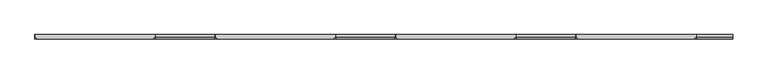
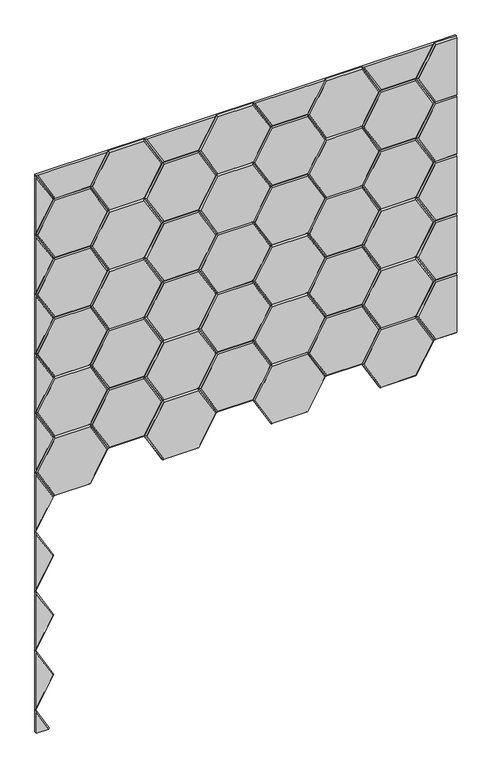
"""IFC4 building model written with IfcOpenShell, lengths in millimetres: proxy geometry, Wall_Clematis 3.3dm."""

from ifc_helpers import new_model, si_unit, origin, place, context, project, spatial, faceted_brep, source, transform, mapped, element, save


def generic_models_c8057d71(model_context):
    return source(origin(), model_context, "Body", "Brep", [
        faceted_brep([(0.0, 12.0, 2800.0), (86.1695, 12.0, 2650.7500479), (0.0, 12.0, 2501.5000959), (0.0, 6.0, 2501.5000959), (86.1695, 6.0, 2650.7500479), (0.0, 6.0, 2800.0), (0.0, 0.0, 2788.0), (0.0, 0.0, 2513.5000959), (79.2412968, 0.0, 2650.7500479)], [[[0, 1, 2]], [[3, 2, 1, 4]], [[4, 1, 0, 5]], [[6, 7, 8]], [[7, 3, 4, 8]], [[5, 6, 8, 4]], [[0, 2, 3, 7, 6, 5]]]),
        faceted_brep([(0.0, 12.0, 1606.0003835), (86.1695, 12.0, 1456.7504314), (0.0, 12.0, 1307.5004794), (0.0, 6.0, 1307.5004794), (86.1695, 6.0, 1456.7504314), (0.0, 6.0, 1606.0003835), (0.0, 0.0, 1594.0003835), (0.0, 0.0, 1319.5004794), (79.2412968, 0.0, 1456.7504314)], [[[0, 1, 2]], [[3, 2, 1, 4]], [[4, 1, 0, 5]], [[6, 7, 8]], [[7, 3, 4, 8]], [[5, 6, 8, 4]], [[0, 2, 3, 7, 6, 5]]]),
        faceted_brep([(0.0, 12.0, 1606.0003835), (0.0, 12.0, 1904.5002876), (86.1695, 12.0, 1755.2503356), (0.0, 6.0, 1904.5002876), (86.1695, 6.0, 1755.2503356), (0.0, 6.0, 1606.0003835), (0.0, 0.0, 1618.0003835), (79.2412968, 0.0, 1755.2503356), (0.0, 0.0, 1892.5002876)], [[[0, 1, 2]], [[3, 4, 2, 1]], [[4, 5, 0, 2]], [[6, 7, 8]], [[8, 7, 4, 3]], [[5, 4, 7, 6]], [[0, 5, 6, 8, 3, 1]]]),
        faceted_brep([(0.0, 12.0, 1904.5002876), (0.0, 12.0, 2203.0001917), (86.1695, 12.0, 2053.7502397), (0.0, 6.0, 2203.0001917), (86.1695, 6.0, 2053.7502397), (0.0, 6.0, 1904.5002876), (0.0, 0.0, 1916.5002876), (79.2412968, 0.0, 2053.7502397), (0.0, 0.0, 2191.0001917)], [[[0, 1, 2]], [[3, 4, 2, 1]], [[4, 5, 0, 2]], [[6, 7, 8]], [[8, 7, 4, 3]], [[5, 4, 7, 6]], [[0, 5, 6, 8, 3, 1]]]),
        faceted_brep([(0.0, 12.0, 2501.5000959), (86.1695, 12.0, 2352.2501438), (0.0, 12.0, 2203.0001917), (0.0, 6.0, 2203.0001917), (86.1695, 6.0, 2352.2501438), (0.0, 6.0, 2501.5000959), (0.0, 0.0, 2489.5000959), (0.0, 0.0, 2215.0001917), (79.2412968, 0.0, 2352.2501438)], [[[0, 1, 2]], [[3, 2, 1, 4]], [[4, 1, 0, 5]], [[6, 7, 8]], [[7, 3, 4, 8]], [[5, 6, 8, 4]], [[0, 2, 3, 7, 6, 5]]]),
        faceted_brep([(0.0, 12.0, 710.5006711), (0.0, 12.0, 1009.0005752), (86.1695, 12.0, 859.7506232), (0.0, 6.0, 1009.0005752), (86.1695, 6.0, 859.7506232), (0.0, 6.0, 710.5006711), (0.0, 0.0, 722.5006711), (79.2412968, 0.0, 859.7506232), (0.0, 0.0, 997.0005752)], [[[0, 1, 2]], [[3, 4, 2, 1]], [[4, 5, 0, 2]], [[6, 7, 8]], [[8, 7, 4, 3]], [[5, 4, 7, 6]], [[0, 5, 6, 8, 3, 1]]]),
        faceted_brep([(0.0, 12.0, 1307.5004794), (86.1695, 12.0, 1158.2505273), (0.0, 12.0, 1009.0005752), (0.0, 6.0, 1009.0005752), (86.1695, 6.0, 1158.2505273), (0.0, 6.0, 1307.5004794), (0.0, 0.0, 1295.5004794), (0.0, 0.0, 1021.0005752), (79.2412968, 0.0, 1158.2505273)], [[[0, 1, 2]], [[3, 2, 1, 4]], [[4, 1, 0, 5]], [[6, 7, 8]], [[7, 3, 4, 8]], [[5, 6, 8, 4]], [[0, 2, 3, 7, 6, 5]]]),
        faceted_brep([(0.0, 12.0, 710.5006711), (86.1695, 12.0, 561.2507191), (0.0, 12.0, 412.000767), (0.0, 6.0, 412.000767), (86.1695, 6.0, 561.2507191), (0.0, 6.0, 710.5006711), (0.0, 0.0, 698.5006711), (0.0, 0.0, 424.000767), (79.2412968, 0.0, 561.2507191)], [[[0, 1, 2]], [[3, 2, 1, 4]], [[4, 1, 0, 5]], [[6, 7, 8]], [[7, 3, 4, 8]], [[5, 6, 8, 4]], [[0, 2, 3, 7, 6, 5]]]),
        faceted_brep([(0.0, 12.0, 412.000767), (86.1695, 12.0, 262.7508149), (0.0, 12.0, 113.5008629), (0.0, 6.0, 113.5008629), (86.1695, 6.0, 262.7508149), (0.0, 6.0, 412.000767), (0.0, 0.0, 400.000767), (0.0, 0.0, 125.5008629), (79.2412968, 0.0, 262.7508149)], [[[0, 1, 2]], [[3, 2, 1, 4]], [[4, 1, 0, 5]], [[6, 7, 8]], [[7, 3, 4, 8]], [[5, 6, 8, 4]], [[0, 2, 3, 7, 6, 5]]]),
        faceted_brep([(0.0, 12.0, 0.0), (0.0, 12.0, 113.5008629), (65.5297537, 12.0, 0.0), (0.0, 6.0, 113.5008629), (65.5297537, 6.0, 0.0), (58.6015505, 0.0, 0.0), (0.0, 0.0, 101.5008629), (0.0, 0.0, 0.0)], [[[0, 1, 2]], [[2, 1, 3, 4]], [[5, 6, 7]], [[4, 3, 6, 5]], [[0, 7, 6, 3, 1]], [[5, 7, 0, 2, 4]]]),
        faceted_brep([(1120.2035, 6.0, 2650.7500479), (1034.034, 6.0, 2800.0), (1034.034, 12.0, 2800.0), (1120.2035, 12.0, 2650.7500479), (1378.712, 6.0, 2800.0), (1292.5425, 6.0, 2650.7500479), (1292.5425, 12.0, 2650.7500479), (1378.712, 12.0, 2800.0), (1123.6676016, 0.0, 2656.7500479), (1040.9622032, 0.0, 2800.0), (1371.7837968, 0.0, 2800.0), (1289.0783984, 0.0, 2656.7500479)], [[[0, 1, 2, 3]], [[4, 5, 6, 7]], [[5, 0, 3, 6]], [[0, 8, 9, 1]], [[4, 10, 11, 5]], [[5, 11, 8, 0]], [[7, 6, 3, 2]], [[10, 9, 8, 11]], [[7, 2, 1, 9, 10, 4]]]),
        faceted_brep([(1809.5595, 6.0, 2650.7500479), (1809.5595, 12.0, 2650.7500479), (1895.729, 12.0, 2800.0), (1895.729, 6.0, 2800.0), (1551.051, 6.0, 2800.0), (1551.051, 12.0, 2800.0), (1637.2205, 12.0, 2650.7500479), (1637.2205, 6.0, 2650.7500479), (1888.8007968, 0.0, 2800.0), (1806.0953984, 0.0, 2656.7500479), (1640.6846016, 0.0, 2656.7500479), (1557.9792032, 0.0, 2800.0)], [[[0, 1, 2, 3]], [[4, 5, 6, 7]], [[7, 6, 1, 0]], [[0, 3, 8, 9]], [[4, 7, 10, 11]], [[7, 0, 9, 10]], [[5, 2, 1, 6]], [[11, 10, 9, 8]], [[5, 4, 11, 8, 3, 2]]]),
        faceted_brep([(775.5255, 6.0, 2650.7500479), (775.5255, 12.0, 2650.7500479), (861.695, 12.0, 2800.0), (861.695, 6.0, 2800.0), (517.017, 6.0, 2800.0), (517.017, 12.0, 2800.0), (603.1865, 12.0, 2650.7500479), (603.1865, 6.0, 2650.7500479), (854.7667968, 0.0, 2800.0), (772.0613984, 0.0, 2656.7500479), (606.6506016, 0.0, 2656.7500479), (523.9452032, 0.0, 2800.0)], [[[0, 1, 2, 3]], [[4, 5, 6, 7]], [[7, 6, 1, 0]], [[0, 3, 8, 9]], [[4, 7, 10, 11]], [[7, 0, 9, 10]], [[5, 2, 1, 6]], [[11, 10, 9, 8]], [[5, 4, 11, 8, 3, 2]]]),
        faceted_brep([(86.1695, 6.0, 2650.7500479), (0.0, 6.0, 2800.0), (0.0, 12.0, 2800.0), (86.1695, 12.0, 2650.7500479), (344.678, 6.0, 2800.0), (258.5085, 6.0, 2650.7500479), (258.5085, 12.0, 2650.7500479), (344.678, 12.0, 2800.0), (89.6336016, 0.0, 2656.7500479), (6.9282032, 0.0, 2800.0), (337.7497968, 0.0, 2800.0), (255.0443984, 0.0, 2656.7500479)], [[[0, 1, 2, 3]], [[4, 5, 6, 7]], [[5, 0, 3, 6]], [[0, 8, 9, 1]], [[4, 10, 11, 5]], [[5, 11, 8, 0]], [[7, 2, 1, 9, 10, 4]], [[7, 6, 3, 2]], [[10, 9, 8, 11]]]),
        faceted_brep([(2000.0, 12.0, 2800.0), (2000.0, 12.0, 2501.5000959), (1895.729, 12.0, 2501.5000959), (1809.5595, 12.0, 2650.7500479), (1895.729, 12.0, 2800.0), (1895.729, 6.0, 2501.5000959), (1809.5595, 6.0, 2650.7500479), (1895.729, 6.0, 2800.0), (2000.0, 6.0, 2501.5000959), (2000.0, 0.0, 2794.0), (1899.1931016, 0.0, 2794.0), (1816.4877032, 0.0, 2650.7500479), (1899.1931016, 0.0, 2507.5000959), (2000.0, 0.0, 2507.5000959), (2000.0, 6.0, 2800.0)], [[[0, 1, 2, 3, 4]], [[5, 6, 3, 2]], [[6, 7, 4, 3]], [[8, 5, 2, 1]], [[9, 10, 11, 12, 13]], [[5, 12, 11, 6]], [[6, 11, 10, 7]], [[14, 7, 10, 9]], [[13, 12, 5, 8]], [[0, 14, 9, 13, 8, 1]], [[4, 7, 14, 0]]]),
        faceted_brep([(1551.051, 12.0, 2501.5000959), (1378.712, 12.0, 2501.5000959), (1292.5425, 12.0, 2650.7500479), (1378.712, 12.0, 2800.0), (1551.051, 12.0, 2800.0), (1637.2205, 12.0, 2650.7500479), (1551.051, 6.0, 2501.5000959), (1637.2205, 6.0, 2650.7500479), (1551.051, 6.0, 2800.0), (1378.712, 6.0, 2800.0), (1292.5425, 6.0, 2650.7500479), (1378.712, 6.0, 2501.5000959), (1382.1761016, 0.0, 2507.5000959), (1547.5868984, 0.0, 2507.5000959), (1630.2922968, 0.0, 2650.7500479), (1547.5868984, 0.0, 2794.0), (1382.1761016, 0.0, 2794.0), (1299.4707032, 0.0, 2650.7500479)], [[[0, 1, 2, 3, 4, 5]], [[6, 0, 5, 7]], [[7, 5, 4, 8]], [[9, 3, 2, 10]], [[10, 2, 1, 11]], [[11, 1, 0, 6]], [[12, 13, 14, 15, 16, 17]], [[6, 7, 14, 13]], [[7, 8, 15, 14]], [[8, 9, 16, 15]], [[9, 10, 17, 16]], [[10, 11, 12, 17]], [[11, 6, 13, 12]], [[4, 3, 9, 8]]]),
        faceted_brep([(1034.034, 12.0, 2501.5000959), (861.695, 12.0, 2501.5000959), (775.5255, 12.0, 2650.7500479), (861.695, 12.0, 2800.0), (1034.034, 12.0, 2800.0), (1120.2035, 12.0, 2650.7500479), (1034.034, 6.0, 2501.5000959), (1120.2035, 6.0, 2650.7500479), (1034.034, 6.0, 2800.0), (861.695, 6.0, 2800.0), (775.5255, 6.0, 2650.7500479), (861.695, 6.0, 2501.5000959), (865.1591016, 0.0, 2507.5000959), (1030.5698984, 0.0, 2507.5000959), (1113.2752968, 0.0, 2650.7500479), (1030.5698984, 0.0, 2794.0), (865.1591016, 0.0, 2794.0), (782.4537032, 0.0, 2650.7500479)], [[[0, 1, 2, 3, 4, 5]], [[6, 0, 5, 7]], [[7, 5, 4, 8]], [[9, 3, 2, 10]], [[10, 2, 1, 11]], [[11, 1, 0, 6]], [[12, 13, 14, 15, 16, 17]], [[6, 7, 14, 13]], [[7, 8, 15, 14]], [[8, 9, 16, 15]], [[9, 10, 17, 16]], [[10, 11, 12, 17]], [[11, 6, 13, 12]], [[4, 3, 9, 8]]]),
        faceted_brep([(344.678, 12.0, 2501.5000959), (258.5085, 12.0, 2650.7500479), (344.678, 12.0, 2800.0), (517.017, 12.0, 2800.0), (603.1865, 12.0, 2650.7500479), (517.017, 12.0, 2501.5000959), (344.678, 6.0, 2501.5000959), (258.5085, 6.0, 2650.7500479), (344.678, 6.0, 2800.0), (517.017, 6.0, 2800.0), (603.1865, 6.0, 2650.7500479), (517.017, 6.0, 2501.5000959), (513.5528984, 0.0, 2507.5000959), (596.2582968, 0.0, 2650.7500479), (513.5528984, 0.0, 2794.0), (348.1421016, 0.0, 2794.0), (265.4367032, 0.0, 2650.7500479), (348.1421016, 0.0, 2507.5000959)], [[[0, 1, 2, 3, 4, 5]], [[6, 7, 1, 0]], [[7, 8, 2, 1]], [[9, 10, 4, 3]], [[10, 11, 5, 4]], [[11, 6, 0, 5]], [[12, 13, 14, 15, 16, 17]], [[6, 17, 16, 7]], [[7, 16, 15, 8]], [[8, 15, 14, 9]], [[9, 14, 13, 10]], [[10, 13, 12, 11]], [[11, 12, 17, 6]], [[2, 8, 9, 3]]]),
        faceted_brep([(1120.2035, 12.0, 2650.7500479), (1292.5425, 12.0, 2650.7500479), (1378.712, 12.0, 2501.5000959), (1292.5425, 12.0, 2352.2501438), (1120.2035, 12.0, 2352.2501438), (1034.034, 12.0, 2501.5000959), (1120.2035, 6.0, 2650.7500479), (1034.034, 6.0, 2501.5000959), (1120.2035, 6.0, 2352.2501438), (1292.5425, 6.0, 2352.2501438), (1378.712, 6.0, 2501.5000959), (1292.5425, 6.0, 2650.7500479), (1289.0783984, 0.0, 2644.7500479), (1123.6676016, 0.0, 2644.7500479), (1040.9622032, 0.0, 2501.5000959), (1123.6676016, 0.0, 2358.2501438), (1289.0783984, 0.0, 2358.2501438), (1371.7837968, 0.0, 2501.5000959)], [[[0, 1, 2, 3, 4, 5]], [[6, 0, 5, 7]], [[7, 5, 4, 8]], [[8, 4, 3, 9]], [[9, 3, 2, 10]], [[10, 2, 1, 11]], [[11, 1, 0, 6]], [[12, 13, 14, 15, 16, 17]], [[6, 7, 14, 13]], [[7, 8, 15, 14]], [[8, 9, 16, 15]], [[9, 10, 17, 16]], [[10, 11, 12, 17]], [[11, 6, 13, 12]]]),
        faceted_brep([(1809.5595, 12.0, 2650.7500479), (1895.729, 12.0, 2501.5000959), (1809.5595, 12.0, 2352.2501438), (1637.2205, 12.0, 2352.2501438), (1551.051, 12.0, 2501.5000959), (1637.2205, 12.0, 2650.7500479), (1809.5595, 6.0, 2650.7500479), (1895.729, 6.0, 2501.5000959), (1809.5595, 6.0, 2352.2501438), (1637.2205, 6.0, 2352.2501438), (1551.051, 6.0, 2501.5000959), (1637.2205, 6.0, 2650.7500479), (1640.6846016, 0.0, 2644.7500479), (1557.9792032, 0.0, 2501.5000959), (1640.6846016, 0.0, 2358.2501438), (1806.0953984, 0.0, 2358.2501438), (1888.8007968, 0.0, 2501.5000959), (1806.0953984, 0.0, 2644.7500479)], [[[0, 1, 2, 3, 4, 5]], [[6, 7, 1, 0]], [[7, 8, 2, 1]], [[8, 9, 3, 2]], [[9, 10, 4, 3]], [[10, 11, 5, 4]], [[11, 6, 0, 5]], [[12, 13, 14, 15, 16, 17]], [[6, 17, 16, 7]], [[7, 16, 15, 8]], [[8, 15, 14, 9]], [[9, 14, 13, 10]], [[10, 13, 12, 11]], [[11, 12, 17, 6]]]),
        faceted_brep([(775.5255, 12.0, 2650.7500479), (861.695, 12.0, 2501.5000959), (775.5255, 12.0, 2352.2501438), (603.1865, 12.0, 2352.2501438), (517.017, 12.0, 2501.5000959), (603.1865, 12.0, 2650.7500479), (775.5255, 6.0, 2650.7500479), (861.695, 6.0, 2501.5000959), (775.5255, 6.0, 2352.2501438), (603.1865, 6.0, 2352.2501438), (517.017, 6.0, 2501.5000959), (603.1865, 6.0, 2650.7500479), (606.6506016, 0.0, 2644.7500479), (523.9452032, 0.0, 2501.5000959), (606.6506016, 0.0, 2358.2501438), (772.0613984, 0.0, 2358.2501438), (854.7667968, 0.0, 2501.5000959), (772.0613984, 0.0, 2644.7500479)], [[[0, 1, 2, 3, 4, 5]], [[6, 7, 1, 0]], [[7, 8, 2, 1]], [[8, 9, 3, 2]], [[9, 10, 4, 3]], [[10, 11, 5, 4]], [[11, 6, 0, 5]], [[12, 13, 14, 15, 16, 17]], [[6, 17, 16, 7]], [[7, 16, 15, 8]], [[8, 15, 14, 9]], [[9, 14, 13, 10]], [[10, 13, 12, 11]], [[11, 12, 17, 6]]]),
        faceted_brep([(86.1695, 12.0, 2650.7500479), (258.5085, 12.0, 2650.7500479), (344.678, 12.0, 2501.5000959), (258.5085, 12.0, 2352.2501438), (86.1695, 12.0, 2352.2501438), (0.0, 12.0, 2501.5000959), (86.1695, 6.0, 2650.7500479), (0.0, 6.0, 2501.5000959), (86.1695, 6.0, 2352.2501438), (258.5085, 6.0, 2352.2501438), (344.678, 6.0, 2501.5000959), (258.5085, 6.0, 2650.7500479), (255.0443984, 0.0, 2644.7500479), (89.6336016, 0.0, 2644.7500479), (6.9282032, 0.0, 2501.5000959), (89.6336016, 0.0, 2358.2501438), (255.0443984, 0.0, 2358.2501438), (337.7497968, 0.0, 2501.5000959)], [[[0, 1, 2, 3, 4, 5]], [[6, 0, 5, 7]], [[7, 5, 4, 8]], [[8, 4, 3, 9]], [[9, 3, 2, 10]], [[10, 2, 1, 11]], [[11, 1, 0, 6]], [[12, 13, 14, 15, 16, 17]], [[6, 7, 14, 13]], [[7, 8, 15, 14]], [[8, 9, 16, 15]], [[9, 10, 17, 16]], [[10, 11, 12, 17]], [[11, 6, 13, 12]]]),
        faceted_brep([(1120.2035, 12.0, 1456.7504314), (1034.034, 12.0, 1606.0003835), (1120.2035, 12.0, 1755.2503356), (1292.5425, 12.0, 1755.2503356), (1378.712, 12.0, 1606.0003835), (1292.5425, 12.0, 1456.7504314), (1120.2035, 6.0, 1456.7504314), (1034.034, 6.0, 1606.0003835), (1120.2035, 6.0, 1755.2503356), (1292.5425, 6.0, 1755.2503356), (1378.712, 6.0, 1606.0003835), (1292.5425, 6.0, 1456.7504314), (1289.0783984, 0.0, 1462.7504314), (1371.7837968, 0.0, 1606.0003835), (1289.0783984, 0.0, 1749.2503356), (1123.6676016, 0.0, 1749.2503356), (1040.9622032, 0.0, 1606.0003835), (1123.6676016, 0.0, 1462.7504314)], [[[0, 1, 2, 3, 4, 5]], [[6, 7, 1, 0]], [[7, 8, 2, 1]], [[8, 9, 3, 2]], [[9, 10, 4, 3]], [[10, 11, 5, 4]], [[11, 6, 0, 5]], [[12, 13, 14, 15, 16, 17]], [[6, 17, 16, 7]], [[7, 16, 15, 8]], [[8, 15, 14, 9]], [[9, 14, 13, 10]], [[10, 13, 12, 11]], [[11, 12, 17, 6]]]),
        faceted_brep([(1809.5595, 12.0, 1456.7504314), (1637.2205, 12.0, 1456.7504314), (1551.051, 12.0, 1606.0003835), (1637.2205, 12.0, 1755.2503356), (1809.5595, 12.0, 1755.2503356), (1895.729, 12.0, 1606.0003835), (1809.5595, 6.0, 1456.7504314), (1895.729, 6.0, 1606.0003835), (1809.5595, 6.0, 1755.2503356), (1637.2205, 6.0, 1755.2503356), (1551.051, 6.0, 1606.0003835), (1637.2205, 6.0, 1456.7504314), (1640.6846016, 0.0, 1462.7504314), (1806.0953984, 0.0, 1462.7504314), (1888.8007968, 0.0, 1606.0003835), (1806.0953984, 0.0, 1749.2503356), (1640.6846016, 0.0, 1749.2503356), (1557.9792032, 0.0, 1606.0003835)], [[[0, 1, 2, 3, 4, 5]], [[6, 0, 5, 7]], [[7, 5, 4, 8]], [[8, 4, 3, 9]], [[9, 3, 2, 10]], [[10, 2, 1, 11]], [[11, 1, 0, 6]], [[12, 13, 14, 15, 16, 17]], [[6, 7, 14, 13]], [[7, 8, 15, 14]], [[8, 9, 16, 15]], [[9, 10, 17, 16]], [[10, 11, 12, 17]], [[11, 6, 13, 12]]]),
        faceted_brep([(775.5255, 12.0, 1456.7504314), (603.1865, 12.0, 1456.7504314), (517.017, 12.0, 1606.0003835), (603.1865, 12.0, 1755.2503356), (775.5255, 12.0, 1755.2503356), (861.695, 12.0, 1606.0003835), (775.5255, 6.0, 1456.7504314), (861.695, 6.0, 1606.0003835), (775.5255, 6.0, 1755.2503356), (603.1865, 6.0, 1755.2503356), (517.017, 6.0, 1606.0003835), (603.1865, 6.0, 1456.7504314), (606.6506016, 0.0, 1462.7504314), (772.0613984, 0.0, 1462.7504314), (854.7667968, 0.0, 1606.0003835), (772.0613984, 0.0, 1749.2503356), (606.6506016, 0.0, 1749.2503356), (523.9452032, 0.0, 1606.0003835)], [[[0, 1, 2, 3, 4, 5]], [[6, 0, 5, 7]], [[7, 5, 4, 8]], [[8, 4, 3, 9]], [[9, 3, 2, 10]], [[10, 2, 1, 11]], [[11, 1, 0, 6]], [[12, 13, 14, 15, 16, 17]], [[6, 7, 14, 13]], [[7, 8, 15, 14]], [[8, 9, 16, 15]], [[9, 10, 17, 16]], [[10, 11, 12, 17]], [[11, 6, 13, 12]]]),
        faceted_brep([(86.1695, 12.0, 1456.7504314), (0.0, 12.0, 1606.0003835), (86.1695, 12.0, 1755.2503356), (258.5085, 12.0, 1755.2503356), (344.678, 12.0, 1606.0003835), (258.5085, 12.0, 1456.7504314), (86.1695, 6.0, 1456.7504314), (0.0, 6.0, 1606.0003835), (86.1695, 6.0, 1755.2503356), (258.5085, 6.0, 1755.2503356), (344.678, 6.0, 1606.0003835), (258.5085, 6.0, 1456.7504314), (255.0443984, 0.0, 1462.7504314), (337.7497968, 0.0, 1606.0003835), (255.0443984, 0.0, 1749.2503356), (89.6336016, 0.0, 1749.2503356), (6.9282032, 0.0, 1606.0003835), (89.6336016, 0.0, 1462.7504314)], [[[0, 1, 2, 3, 4, 5]], [[6, 7, 1, 0]], [[7, 8, 2, 1]], [[8, 9, 3, 2]], [[9, 10, 4, 3]], [[10, 11, 5, 4]], [[11, 6, 0, 5]], [[12, 13, 14, 15, 16, 17]], [[6, 17, 16, 7]], [[7, 16, 15, 8]], [[8, 15, 14, 9]], [[9, 14, 13, 10]], [[10, 13, 12, 11]], [[11, 12, 17, 6]]]),
        faceted_brep([(2000.0, 12.0, 1606.0003835), (2000.0, 12.0, 1307.5004794), (1895.729, 12.0, 1307.5004794), (1809.5595, 12.0, 1456.7504314), (1895.729, 12.0, 1606.0003835), (1895.729, 6.0, 1307.5004794), (1809.5595, 6.0, 1456.7504314), (1895.729, 6.0, 1606.0003835), (2000.0, 6.0, 1606.0003835), (2000.0, 6.0, 1307.5004794), (2000.0, 0.0, 1600.0003835), (1899.1931016, 0.0, 1600.0003835), (1816.4877032, 0.0, 1456.7504314), (1899.1931016, 0.0, 1313.5004794), (2000.0, 0.0, 1313.5004794)], [[[0, 1, 2, 3, 4]], [[5, 6, 3, 2]], [[6, 7, 4, 3]], [[0, 4, 7, 8]], [[9, 5, 2, 1]], [[10, 11, 12, 13, 14]], [[5, 13, 12, 6]], [[6, 12, 11, 7]], [[8, 7, 11, 10]], [[14, 13, 5, 9]], [[0, 8, 10, 14, 9, 1]]]),
        faceted_brep([(1551.051, 12.0, 1307.5004794), (1378.712, 12.0, 1307.5004794), (1292.5425, 12.0, 1456.7504314), (1378.712, 12.0, 1606.0003835), (1551.051, 12.0, 1606.0003835), (1637.2205, 12.0, 1456.7504314), (1551.051, 6.0, 1307.5004794), (1637.2205, 6.0, 1456.7504314), (1551.051, 6.0, 1606.0003835), (1378.712, 6.0, 1606.0003835), (1292.5425, 6.0, 1456.7504314), (1378.712, 6.0, 1307.5004794), (1382.1761016, 0.0, 1313.5004794), (1547.5868984, 0.0, 1313.5004794), (1630.2922968, 0.0, 1456.7504314), (1547.5868984, 0.0, 1600.0003835), (1382.1761016, 0.0, 1600.0003835), (1299.4707032, 0.0, 1456.7504314)], [[[0, 1, 2, 3, 4, 5]], [[6, 0, 5, 7]], [[7, 5, 4, 8]], [[8, 4, 3, 9]], [[9, 3, 2, 10]], [[10, 2, 1, 11]], [[11, 1, 0, 6]], [[12, 13, 14, 15, 16, 17]], [[6, 7, 14, 13]], [[7, 8, 15, 14]], [[8, 9, 16, 15]], [[9, 10, 17, 16]], [[10, 11, 12, 17]], [[11, 6, 13, 12]]]),
        faceted_brep([(1034.034, 12.0, 1307.5004794), (861.695, 12.0, 1307.5004794), (775.5255, 12.0, 1456.7504314), (861.695, 12.0, 1606.0003835), (1034.034, 12.0, 1606.0003835), (1120.2035, 12.0, 1456.7504314), (1034.034, 6.0, 1307.5004794), (1120.2035, 6.0, 1456.7504314), (1034.034, 6.0, 1606.0003835), (861.695, 6.0, 1606.0003835), (775.5255, 6.0, 1456.7504314), (861.695, 6.0, 1307.5004794), (865.1591016, 0.0, 1313.5004794), (1030.5698984, 0.0, 1313.5004794), (1113.2752968, 0.0, 1456.7504314), (1030.5698984, 0.0, 1600.0003835), (865.1591016, 0.0, 1600.0003835), (782.4537032, 0.0, 1456.7504314)], [[[0, 1, 2, 3, 4, 5]], [[6, 0, 5, 7]], [[7, 5, 4, 8]], [[8, 4, 3, 9]], [[9, 3, 2, 10]], [[10, 2, 1, 11]], [[11, 1, 0, 6]], [[12, 13, 14, 15, 16, 17]], [[6, 7, 14, 13]], [[7, 8, 15, 14]], [[8, 9, 16, 15]], [[9, 10, 17, 16]], [[10, 11, 12, 17]], [[11, 6, 13, 12]]]),
        faceted_brep([(344.678, 12.0, 1307.5004794), (258.5085, 12.0, 1456.7504314), (344.678, 12.0, 1606.0003835), (517.017, 12.0, 1606.0003835), (603.1865, 12.0, 1456.7504314), (517.017, 12.0, 1307.5004794), (344.678, 6.0, 1307.5004794), (258.5085, 6.0, 1456.7504314), (344.678, 6.0, 1606.0003835), (517.017, 6.0, 1606.0003835), (603.1865, 6.0, 1456.7504314), (517.017, 6.0, 1307.5004794), (513.5528984, 0.0, 1313.5004794), (596.2582968, 0.0, 1456.7504314), (513.5528984, 0.0, 1600.0003835), (348.1421016, 0.0, 1600.0003835), (265.4367032, 0.0, 1456.7504314), (348.1421016, 0.0, 1313.5004794)], [[[0, 1, 2, 3, 4, 5]], [[6, 7, 1, 0]], [[7, 8, 2, 1]], [[8, 9, 3, 2]], [[9, 10, 4, 3]], [[10, 11, 5, 4]], [[11, 6, 0, 5]], [[12, 13, 14, 15, 16, 17]], [[6, 17, 16, 7]], [[7, 16, 15, 8]], [[8, 15, 14, 9]], [[9, 14, 13, 10]], [[10, 13, 12, 11]], [[11, 12, 17, 6]]]),
        faceted_brep([(1120.2035, 12.0, 1456.7504314), (1292.5425, 12.0, 1456.7504314), (1378.712, 12.0, 1307.5004794), (1292.5425, 12.0, 1158.2505273), (1120.2035, 12.0, 1158.2505273), (1034.034, 12.0, 1307.5004794), (1120.2035, 6.0, 1456.7504314), (1034.034, 6.0, 1307.5004794), (1120.2035, 6.0, 1158.2505273), (1292.5425, 6.0, 1158.2505273), (1378.712, 6.0, 1307.5004794), (1292.5425, 6.0, 1456.7504314), (1289.0783984, 0.0, 1450.7504314), (1123.6676016, 0.0, 1450.7504314), (1040.9622032, 0.0, 1307.5004794), (1123.6676016, 0.0, 1164.2505273), (1289.0783984, 0.0, 1164.2505273), (1371.7837968, 0.0, 1307.5004794)], [[[0, 1, 2, 3, 4, 5]], [[6, 0, 5, 7]], [[7, 5, 4, 8]], [[8, 4, 3, 9]], [[9, 3, 2, 10]], [[10, 2, 1, 11]], [[11, 1, 0, 6]], [[12, 13, 14, 15, 16, 17]], [[6, 7, 14, 13]], [[7, 8, 15, 14]], [[8, 9, 16, 15]], [[9, 10, 17, 16]], [[10, 11, 12, 17]], [[11, 6, 13, 12]]]),
        faceted_brep([(1809.5595, 12.0, 1456.7504314), (1895.729, 12.0, 1307.5004794), (1809.5595, 12.0, 1158.2505273), (1637.2205, 12.0, 1158.2505273), (1551.051, 12.0, 1307.5004794), (1637.2205, 12.0, 1456.7504314), (1809.5595, 6.0, 1456.7504314), (1895.729, 6.0, 1307.5004794), (1809.5595, 6.0, 1158.2505273), (1637.2205, 6.0, 1158.2505273), (1551.051, 6.0, 1307.5004794), (1637.2205, 6.0, 1456.7504314), (1640.6846016, 0.0, 1450.7504314), (1557.9792032, 0.0, 1307.5004794), (1640.6846016, 0.0, 1164.2505273), (1806.0953984, 0.0, 1164.2505273), (1888.8007968, 0.0, 1307.5004794), (1806.0953984, 0.0, 1450.7504314)], [[[0, 1, 2, 3, 4, 5]], [[6, 7, 1, 0]], [[7, 8, 2, 1]], [[8, 9, 3, 2]], [[9, 10, 4, 3]], [[10, 11, 5, 4]], [[11, 6, 0, 5]], [[12, 13, 14, 15, 16, 17]], [[6, 17, 16, 7]], [[7, 16, 15, 8]], [[8, 15, 14, 9]], [[9, 14, 13, 10]], [[10, 13, 12, 11]], [[11, 12, 17, 6]]]),
        faceted_brep([(775.5255, 12.0, 1456.7504314), (861.695, 12.0, 1307.5004794), (775.5255, 12.0, 1158.2505273), (603.1865, 12.0, 1158.2505273), (517.017, 12.0, 1307.5004794), (603.1865, 12.0, 1456.7504314), (775.5255, 6.0, 1456.7504314), (861.695, 6.0, 1307.5004794), (775.5255, 6.0, 1158.2505273), (603.1865, 6.0, 1158.2505273), (517.017, 6.0, 1307.5004794), (603.1865, 6.0, 1456.7504314), (606.6506016, 0.0, 1450.7504314), (523.9452032, 0.0, 1307.5004794), (606.6506016, 0.0, 1164.2505273), (772.0613984, 0.0, 1164.2505273), (854.7667968, 0.0, 1307.5004794), (772.0613984, 0.0, 1450.7504314)], [[[0, 1, 2, 3, 4, 5]], [[6, 7, 1, 0]], [[7, 8, 2, 1]], [[8, 9, 3, 2]], [[9, 10, 4, 3]], [[10, 11, 5, 4]], [[11, 6, 0, 5]], [[12, 13, 14, 15, 16, 17]], [[6, 17, 16, 7]], [[7, 16, 15, 8]], [[8, 15, 14, 9]], [[9, 14, 13, 10]], [[10, 13, 12, 11]], [[11, 12, 17, 6]]]),
        faceted_brep([(86.1695, 12.0, 1456.7504314), (258.5085, 12.0, 1456.7504314), (344.678, 12.0, 1307.5004794), (258.5085, 12.0, 1158.2505273), (86.1695, 12.0, 1158.2505273), (0.0, 12.0, 1307.5004794), (86.1695, 6.0, 1456.7504314), (0.0, 6.0, 1307.5004794), (86.1695, 6.0, 1158.2505273), (258.5085, 6.0, 1158.2505273), (344.678, 6.0, 1307.5004794), (258.5085, 6.0, 1456.7504314), (255.0443984, 0.0, 1450.7504314), (89.6336016, 0.0, 1450.7504314), (6.9282032, 0.0, 1307.5004794), (89.6336016, 0.0, 1164.2505273), (255.0443984, 0.0, 1164.2505273), (337.7497968, 0.0, 1307.5004794)], [[[0, 1, 2, 3, 4, 5]], [[6, 0, 5, 7]], [[7, 5, 4, 8]], [[8, 4, 3, 9]], [[9, 3, 2, 10]], [[10, 2, 1, 11]], [[11, 1, 0, 6]], [[12, 13, 14, 15, 16, 17]], [[6, 7, 14, 13]], [[7, 8, 15, 14]], [[8, 9, 16, 15]], [[9, 10, 17, 16]], [[10, 11, 12, 17]], [[11, 6, 13, 12]]]),
        faceted_brep([(2000.0, 12.0, 1606.0003835), (1895.729, 12.0, 1606.0003835), (1809.5595, 12.0, 1755.2503356), (1895.729, 12.0, 1904.5002876), (2000.0, 12.0, 1904.5002876), (1895.729, 6.0, 1904.5002876), (1809.5595, 6.0, 1755.2503356), (1895.729, 6.0, 1606.0003835), (2000.0, 6.0, 1606.0003835), (2000.0, 6.0, 1904.5002876), (2000.0, 0.0, 1612.0003835), (2000.0, 0.0, 1898.5002876), (1899.1931016, 0.0, 1898.5002876), (1816.4877032, 0.0, 1755.2503356), (1899.1931016, 0.0, 1612.0003835)], [[[0, 1, 2, 3, 4]], [[5, 3, 2, 6]], [[6, 2, 1, 7]], [[0, 8, 7, 1]], [[9, 4, 3, 5]], [[10, 11, 12, 13, 14]], [[5, 6, 13, 12]], [[6, 7, 14, 13]], [[8, 10, 14, 7]], [[11, 9, 5, 12]], [[0, 4, 9, 11, 10, 8]]]),
        faceted_brep([(1120.2035, 12.0, 2053.7502397), (1292.5425, 12.0, 2053.7502397), (1378.712, 12.0, 1904.5002876), (1292.5425, 12.0, 1755.2503356), (1120.2035, 12.0, 1755.2503356), (1034.034, 12.0, 1904.5002876), (1120.2035, 6.0, 2053.7502397), (1034.034, 6.0, 1904.5002876), (1120.2035, 6.0, 1755.2503356), (1292.5425, 6.0, 1755.2503356), (1378.712, 6.0, 1904.5002876), (1292.5425, 6.0, 2053.7502397), (1289.0783984, 0.0, 2047.7502397), (1123.6676016, 0.0, 2047.7502397), (1040.9622032, 0.0, 1904.5002876), (1123.6676016, 0.0, 1761.2503356), (1289.0783984, 0.0, 1761.2503356), (1371.7837968, 0.0, 1904.5002876)], [[[0, 1, 2, 3, 4, 5]], [[6, 0, 5, 7]], [[7, 5, 4, 8]], [[8, 4, 3, 9]], [[9, 3, 2, 10]], [[10, 2, 1, 11]], [[11, 1, 0, 6]], [[12, 13, 14, 15, 16, 17]], [[6, 7, 14, 13]], [[7, 8, 15, 14]], [[8, 9, 16, 15]], [[9, 10, 17, 16]], [[10, 11, 12, 17]], [[11, 6, 13, 12]]]),
        faceted_brep([(1809.5595, 12.0, 2053.7502397), (1895.729, 12.0, 1904.5002876), (1809.5595, 12.0, 1755.2503356), (1637.2205, 12.0, 1755.2503356), (1551.051, 12.0, 1904.5002876), (1637.2205, 12.0, 2053.7502397), (1809.5595, 6.0, 2053.7502397), (1895.729, 6.0, 1904.5002876), (1809.5595, 6.0, 1755.2503356), (1637.2205, 6.0, 1755.2503356), (1551.051, 6.0, 1904.5002876), (1637.2205, 6.0, 2053.7502397), (1640.6846016, 0.0, 2047.7502397), (1557.9792032, 0.0, 1904.5002876), (1640.6846016, 0.0, 1761.2503356), (1806.0953984, 0.0, 1761.2503356), (1888.8007968, 0.0, 1904.5002876), (1806.0953984, 0.0, 2047.7502397)], [[[0, 1, 2, 3, 4, 5]], [[6, 7, 1, 0]], [[7, 8, 2, 1]], [[8, 9, 3, 2]], [[9, 10, 4, 3]], [[10, 11, 5, 4]], [[11, 6, 0, 5]], [[12, 13, 14, 15, 16, 17]], [[6, 17, 16, 7]], [[7, 16, 15, 8]], [[8, 15, 14, 9]], [[9, 14, 13, 10]], [[10, 13, 12, 11]], [[11, 12, 17, 6]]]),
        faceted_brep([(1551.051, 12.0, 1904.5002876), (1637.2205, 12.0, 1755.2503356), (1551.051, 12.0, 1606.0003835), (1378.712, 12.0, 1606.0003835), (1292.5425, 12.0, 1755.2503356), (1378.712, 12.0, 1904.5002876), (1551.051, 6.0, 1904.5002876), (1637.2205, 6.0, 1755.2503356), (1551.051, 6.0, 1606.0003835), (1378.712, 6.0, 1606.0003835), (1292.5425, 6.0, 1755.2503356), (1378.712, 6.0, 1904.5002876), (1382.1761016, 0.0, 1898.5002876), (1299.4707032, 0.0, 1755.2503356), (1382.1761016, 0.0, 1612.0003835), (1547.5868984, 0.0, 1612.0003835), (1630.2922968, 0.0, 1755.2503356), (1547.5868984, 0.0, 1898.5002876)], [[[0, 1, 2, 3, 4, 5]], [[6, 7, 1, 0]], [[7, 8, 2, 1]], [[8, 9, 3, 2]], [[9, 10, 4, 3]], [[10, 11, 5, 4]], [[11, 6, 0, 5]], [[12, 13, 14, 15, 16, 17]], [[6, 17, 16, 7]], [[7, 16, 15, 8]], [[8, 15, 14, 9]], [[9, 14, 13, 10]], [[10, 13, 12, 11]], [[11, 12, 17, 6]]]),
        faceted_brep([(1034.034, 12.0, 1904.5002876), (1120.2035, 12.0, 1755.2503356), (1034.034, 12.0, 1606.0003835), (861.695, 12.0, 1606.0003835), (775.5255, 12.0, 1755.2503356), (861.695, 12.0, 1904.5002876), (1034.034, 6.0, 1904.5002876), (1120.2035, 6.0, 1755.2503356), (1034.034, 6.0, 1606.0003835), (861.695, 6.0, 1606.0003835), (775.5255, 6.0, 1755.2503356), (861.695, 6.0, 1904.5002876), (865.1591016, 0.0, 1898.5002876), (782.4537032, 0.0, 1755.2503356), (865.1591016, 0.0, 1612.0003835), (1030.5698984, 0.0, 1612.0003835), (1113.2752968, 0.0, 1755.2503356), (1030.5698984, 0.0, 1898.5002876)], [[[0, 1, 2, 3, 4, 5]], [[6, 7, 1, 0]], [[7, 8, 2, 1]], [[8, 9, 3, 2]], [[9, 10, 4, 3]], [[10, 11, 5, 4]], [[11, 6, 0, 5]], [[12, 13, 14, 15, 16, 17]], [[6, 17, 16, 7]], [[7, 16, 15, 8]], [[8, 15, 14, 9]], [[9, 14, 13, 10]], [[10, 13, 12, 11]], [[11, 12, 17, 6]]]),
        faceted_brep([(775.5255, 12.0, 2053.7502397), (861.695, 12.0, 1904.5002876), (775.5255, 12.0, 1755.2503356), (603.1865, 12.0, 1755.2503356), (517.017, 12.0, 1904.5002876), (603.1865, 12.0, 2053.7502397), (775.5255, 6.0, 2053.7502397), (861.695, 6.0, 1904.5002876), (775.5255, 6.0, 1755.2503356), (603.1865, 6.0, 1755.2503356), (517.017, 6.0, 1904.5002876), (603.1865, 6.0, 2053.7502397), (606.6506016, 0.0, 2047.7502397), (523.9452032, 0.0, 1904.5002876), (606.6506016, 0.0, 1761.2503356), (772.0613984, 0.0, 1761.2503356), (854.7667968, 0.0, 1904.5002876), (772.0613984, 0.0, 2047.7502397)], [[[0, 1, 2, 3, 4, 5]], [[6, 7, 1, 0]], [[7, 8, 2, 1]], [[8, 9, 3, 2]], [[9, 10, 4, 3]], [[10, 11, 5, 4]], [[11, 6, 0, 5]], [[12, 13, 14, 15, 16, 17]], [[6, 17, 16, 7]], [[7, 16, 15, 8]], [[8, 15, 14, 9]], [[9, 14, 13, 10]], [[10, 13, 12, 11]], [[11, 12, 17, 6]]]),
        faceted_brep([(86.1695, 12.0, 2053.7502397), (258.5085, 12.0, 2053.7502397), (344.678, 12.0, 1904.5002876), (258.5085, 12.0, 1755.2503356), (86.1695, 12.0, 1755.2503356), (0.0, 12.0, 1904.5002876), (86.1695, 6.0, 2053.7502397), (0.0, 6.0, 1904.5002876), (86.1695, 6.0, 1755.2503356), (258.5085, 6.0, 1755.2503356), (344.678, 6.0, 1904.5002876), (258.5085, 6.0, 2053.7502397), (255.0443984, 0.0, 2047.7502397), (89.6336016, 0.0, 2047.7502397), (6.9282032, 0.0, 1904.5002876), (89.6336016, 0.0, 1761.2503356), (255.0443984, 0.0, 1761.2503356), (337.7497968, 0.0, 1904.5002876)], [[[0, 1, 2, 3, 4, 5]], [[6, 0, 5, 7]], [[7, 5, 4, 8]], [[8, 4, 3, 9]], [[9, 3, 2, 10]], [[10, 2, 1, 11]], [[11, 1, 0, 6]], [[12, 13, 14, 15, 16, 17]], [[6, 7, 14, 13]], [[7, 8, 15, 14]], [[8, 9, 16, 15]], [[9, 10, 17, 16]], [[10, 11, 12, 17]], [[11, 6, 13, 12]]]),
        faceted_brep([(344.678, 12.0, 1904.5002876), (517.017, 12.0, 1904.5002876), (603.1865, 12.0, 1755.2503356), (517.017, 12.0, 1606.0003835), (344.678, 12.0, 1606.0003835), (258.5085, 12.0, 1755.2503356), (344.678, 6.0, 1904.5002876), (258.5085, 6.0, 1755.2503356), (344.678, 6.0, 1606.0003835), (517.017, 6.0, 1606.0003835), (603.1865, 6.0, 1755.2503356), (517.017, 6.0, 1904.5002876), (513.5528984, 0.0, 1898.5002876), (348.1421016, 0.0, 1898.5002876), (265.4367032, 0.0, 1755.2503356), (348.1421016, 0.0, 1612.0003835), (513.5528984, 0.0, 1612.0003835), (596.2582968, 0.0, 1755.2503356)], [[[0, 1, 2, 3, 4, 5]], [[6, 0, 5, 7]], [[7, 5, 4, 8]], [[8, 4, 3, 9]], [[9, 3, 2, 10]], [[10, 2, 1, 11]], [[11, 1, 0, 6]], [[12, 13, 14, 15, 16, 17]], [[6, 7, 14, 13]], [[7, 8, 15, 14]], [[8, 9, 16, 15]], [[9, 10, 17, 16]], [[10, 11, 12, 17]], [[11, 6, 13, 12]]]),
        faceted_brep([(2000.0, 12.0, 1904.5002876), (1895.729, 12.0, 1904.5002876), (1809.5595, 12.0, 2053.7502397), (1895.729, 12.0, 2203.0001917), (2000.0, 12.0, 2203.0001917), (1895.729, 6.0, 2203.0001917), (1809.5595, 6.0, 2053.7502397), (1895.729, 6.0, 1904.5002876), (2000.0, 6.0, 1904.5002876), (2000.0, 6.0, 2203.0001917), (2000.0, 0.0, 1910.5002876), (2000.0, 0.0, 2197.0001917), (1899.1931016, 0.0, 2197.0001917), (1816.4877032, 0.0, 2053.7502397), (1899.1931016, 0.0, 1910.5002876)], [[[0, 1, 2, 3, 4]], [[5, 3, 2, 6]], [[6, 2, 1, 7]], [[0, 8, 7, 1]], [[9, 4, 3, 5]], [[10, 11, 12, 13, 14]], [[5, 6, 13, 12]], [[6, 7, 14, 13]], [[8, 10, 14, 7]], [[11, 9, 5, 12]], [[0, 4, 9, 11, 10, 8]]]),
        faceted_brep([(1551.051, 12.0, 2203.0001917), (1637.2205, 12.0, 2053.7502397), (1551.051, 12.0, 1904.5002876), (1378.712, 12.0, 1904.5002876), (1292.5425, 12.0, 2053.7502397), (1378.712, 12.0, 2203.0001917), (1551.051, 6.0, 2203.0001917), (1637.2205, 6.0, 2053.7502397), (1551.051, 6.0, 1904.5002876), (1378.712, 6.0, 1904.5002876), (1292.5425, 6.0, 2053.7502397), (1378.712, 6.0, 2203.0001917), (1382.1761016, 0.0, 2197.0001917), (1299.4707032, 0.0, 2053.7502397), (1382.1761016, 0.0, 1910.5002876), (1547.5868984, 0.0, 1910.5002876), (1630.2922968, 0.0, 2053.7502397), (1547.5868984, 0.0, 2197.0001917)], [[[0, 1, 2, 3, 4, 5]], [[6, 7, 1, 0]], [[7, 8, 2, 1]], [[8, 9, 3, 2]], [[9, 10, 4, 3]], [[10, 11, 5, 4]], [[11, 6, 0, 5]], [[12, 13, 14, 15, 16, 17]], [[6, 17, 16, 7]], [[7, 16, 15, 8]], [[8, 15, 14, 9]], [[9, 14, 13, 10]], [[10, 13, 12, 11]], [[11, 12, 17, 6]]]),
        faceted_brep([(1034.034, 12.0, 2203.0001917), (1120.2035, 12.0, 2053.7502397), (1034.034, 12.0, 1904.5002876), (861.695, 12.0, 1904.5002876), (775.5255, 12.0, 2053.7502397), (861.695, 12.0, 2203.0001917), (1034.034, 6.0, 2203.0001917), (1120.2035, 6.0, 2053.7502397), (1034.034, 6.0, 1904.5002876), (861.695, 6.0, 1904.5002876), (775.5255, 6.0, 2053.7502397), (861.695, 6.0, 2203.0001917), (865.1591016, 0.0, 2197.0001917), (782.4537032, 0.0, 2053.7502397), (865.1591016, 0.0, 1910.5002876), (1030.5698984, 0.0, 1910.5002876), (1113.2752968, 0.0, 2053.7502397), (1030.5698984, 0.0, 2197.0001917)], [[[0, 1, 2, 3, 4, 5]], [[6, 7, 1, 0]], [[7, 8, 2, 1]], [[8, 9, 3, 2]], [[9, 10, 4, 3]], [[10, 11, 5, 4]], [[11, 6, 0, 5]], [[12, 13, 14, 15, 16, 17]], [[6, 17, 16, 7]], [[7, 16, 15, 8]], [[8, 15, 14, 9]], [[9, 14, 13, 10]], [[10, 13, 12, 11]], [[11, 12, 17, 6]]]),
        faceted_brep([(344.678, 12.0, 2203.0001917), (517.017, 12.0, 2203.0001917), (603.1865, 12.0, 2053.7502397), (517.017, 12.0, 1904.5002876), (344.678, 12.0, 1904.5002876), (258.5085, 12.0, 2053.7502397), (344.678, 6.0, 2203.0001917), (258.5085, 6.0, 2053.7502397), (344.678, 6.0, 1904.5002876), (517.017, 6.0, 1904.5002876), (603.1865, 6.0, 2053.7502397), (517.017, 6.0, 2203.0001917), (513.5528984, 0.0, 2197.0001917), (348.1421016, 0.0, 2197.0001917), (265.4367032, 0.0, 2053.7502397), (348.1421016, 0.0, 1910.5002876), (513.5528984, 0.0, 1910.5002876), (596.2582968, 0.0, 2053.7502397)], [[[0, 1, 2, 3, 4, 5]], [[6, 0, 5, 7]], [[7, 5, 4, 8]], [[8, 4, 3, 9]], [[9, 3, 2, 10]], [[10, 2, 1, 11]], [[11, 1, 0, 6]], [[12, 13, 14, 15, 16, 17]], [[6, 7, 14, 13]], [[7, 8, 15, 14]], [[8, 9, 16, 15]], [[9, 10, 17, 16]], [[10, 11, 12, 17]], [[11, 6, 13, 12]]]),
        faceted_brep([(2000.0, 12.0, 2501.5000959), (2000.0, 12.0, 2203.0001917), (1895.729, 12.0, 2203.0001917), (1809.5595, 12.0, 2352.2501438), (1895.729, 12.0, 2501.5000959), (1895.729, 6.0, 2203.0001917), (1809.5595, 6.0, 2352.2501438), (1895.729, 6.0, 2501.5000959), (2000.0, 6.0, 2501.5000959), (2000.0, 6.0, 2203.0001917), (2000.0, 0.0, 2495.5000959), (1899.1931016, 0.0, 2495.5000959), (1816.4877032, 0.0, 2352.2501438), (1899.1931016, 0.0, 2209.0001917), (2000.0, 0.0, 2209.0001917)], [[[0, 1, 2, 3, 4]], [[5, 6, 3, 2]], [[6, 7, 4, 3]], [[0, 4, 7, 8]], [[9, 5, 2, 1]], [[10, 11, 12, 13, 14]], [[5, 13, 12, 6]], [[6, 12, 11, 7]], [[8, 7, 11, 10]], [[14, 13, 5, 9]], [[0, 8, 10, 14, 9, 1]]]),
        faceted_brep([(1120.2035, 12.0, 2053.7502397), (1034.034, 12.0, 2203.0001917), (1120.2035, 12.0, 2352.2501438), (1292.5425, 12.0, 2352.2501438), (1378.712, 12.0, 2203.0001917), (1292.5425, 12.0, 2053.7502397), (1120.2035, 6.0, 2053.7502397), (1034.034, 6.0, 2203.0001917), (1120.2035, 6.0, 2352.2501438), (1292.5425, 6.0, 2352.2501438), (1378.712, 6.0, 2203.0001917), (1292.5425, 6.0, 2053.7502397), (1289.0783984, 0.0, 2059.7502397), (1371.7837968, 0.0, 2203.0001917), (1289.0783984, 0.0, 2346.2501438), (1123.6676016, 0.0, 2346.2501438), (1040.9622032, 0.0, 2203.0001917), (1123.6676016, 0.0, 2059.7502397)], [[[0, 1, 2, 3, 4, 5]], [[6, 7, 1, 0]], [[7, 8, 2, 1]], [[8, 9, 3, 2]], [[9, 10, 4, 3]], [[10, 11, 5, 4]], [[11, 6, 0, 5]], [[12, 13, 14, 15, 16, 17]], [[6, 17, 16, 7]], [[7, 16, 15, 8]], [[8, 15, 14, 9]], [[9, 14, 13, 10]], [[10, 13, 12, 11]], [[11, 12, 17, 6]]]),
        faceted_brep([(1809.5595, 12.0, 2053.7502397), (1637.2205, 12.0, 2053.7502397), (1551.051, 12.0, 2203.0001917), (1637.2205, 12.0, 2352.2501438), (1809.5595, 12.0, 2352.2501438), (1895.729, 12.0, 2203.0001918), (1809.5595, 6.0, 2053.7502397), (1895.729, 6.0, 2203.0001918), (1809.5595, 6.0, 2352.2501438), (1637.2205, 6.0, 2352.2501438), (1551.051, 6.0, 2203.0001917), (1637.2205, 6.0, 2053.7502397), (1640.6846016, 0.0, 2059.7502397), (1806.0953984, 0.0, 2059.7502397), (1888.8007968, 0.0, 2203.0001918), (1806.0953984, 0.0, 2346.2501438), (1640.6846016, 0.0, 2346.2501438), (1557.9792032, 0.0, 2203.0001917)], [[[0, 1, 2, 3, 4, 5]], [[6, 0, 5, 7]], [[7, 5, 4, 8]], [[8, 4, 3, 9]], [[9, 3, 2, 10]], [[10, 2, 1, 11]], [[11, 1, 0, 6]], [[12, 13, 14, 15, 16, 17]], [[6, 7, 14, 13]], [[7, 8, 15, 14]], [[8, 9, 16, 15]], [[9, 10, 17, 16]], [[10, 11, 12, 17]], [[11, 6, 13, 12]]]),
        faceted_brep([(1551.051, 12.0, 2203.0001917), (1378.712, 12.0, 2203.0001917), (1292.5425, 12.0, 2352.2501438), (1378.712, 12.0, 2501.5000959), (1551.051, 12.0, 2501.5000959), (1637.2205, 12.0, 2352.2501438), (1551.051, 6.0, 2203.0001917), (1637.2205, 6.0, 2352.2501438), (1551.051, 6.0, 2501.5000959), (1378.712, 6.0, 2501.5000959), (1292.5425, 6.0, 2352.2501438), (1378.712, 6.0, 2203.0001917), (1382.1761016, 0.0, 2209.0001917), (1547.5868984, 0.0, 2209.0001917), (1630.2922968, 0.0, 2352.2501438), (1547.5868984, 0.0, 2495.5000959), (1382.1761016, 0.0, 2495.5000959), (1299.4707032, 0.0, 2352.2501438)], [[[0, 1, 2, 3, 4, 5]], [[6, 0, 5, 7]], [[7, 5, 4, 8]], [[8, 4, 3, 9]], [[9, 3, 2, 10]], [[10, 2, 1, 11]], [[11, 1, 0, 6]], [[12, 13, 14, 15, 16, 17]], [[6, 7, 14, 13]], [[7, 8, 15, 14]], [[8, 9, 16, 15]], [[9, 10, 17, 16]], [[10, 11, 12, 17]], [[11, 6, 13, 12]]]),
        faceted_brep([(1034.034, 12.0, 2203.0001917), (861.695, 12.0, 2203.0001917), (775.5255, 12.0, 2352.2501438), (861.695, 12.0, 2501.5000959), (1034.034, 12.0, 2501.5000959), (1120.2035, 12.0, 2352.2501438), (1034.034, 6.0, 2203.0001917), (1120.2035, 6.0, 2352.2501438), (1034.034, 6.0, 2501.5000959), (861.695, 6.0, 2501.5000959), (775.5255, 6.0, 2352.2501438), (861.695, 6.0, 2203.0001917), (865.1591016, 0.0, 2209.0001917), (1030.5698984, 0.0, 2209.0001917), (1113.2752968, 0.0, 2352.2501438), (1030.5698984, 0.0, 2495.5000959), (865.1591016, 0.0, 2495.5000959), (782.4537032, 0.0, 2352.2501438)], [[[0, 1, 2, 3, 4, 5]], [[6, 0, 5, 7]], [[7, 5, 4, 8]], [[8, 4, 3, 9]], [[9, 3, 2, 10]], [[10, 2, 1, 11]], [[11, 1, 0, 6]], [[12, 13, 14, 15, 16, 17]], [[6, 7, 14, 13]], [[7, 8, 15, 14]], [[8, 9, 16, 15]], [[9, 10, 17, 16]], [[10, 11, 12, 17]], [[11, 6, 13, 12]]]),
        faceted_brep([(775.5255, 12.0, 2053.7502397), (603.1865, 12.0, 2053.7502397), (517.017, 12.0, 2203.0001917), (603.1865, 12.0, 2352.2501438), (775.5255, 12.0, 2352.2501438), (861.695, 12.0, 2203.0001917), (775.5255, 6.0, 2053.7502397), (861.695, 6.0, 2203.0001917), (775.5255, 6.0, 2352.2501438), (603.1865, 6.0, 2352.2501438), (517.017, 6.0, 2203.0001917), (603.1865, 6.0, 2053.7502397), (606.6506016, 0.0, 2059.7502397), (772.0613984, 0.0, 2059.7502397), (854.7667968, 0.0, 2203.0001917), (772.0613984, 0.0, 2346.2501438), (606.6506016, 0.0, 2346.2501438), (523.9452032, 0.0, 2203.0001917)], [[[0, 1, 2, 3, 4, 5]], [[6, 0, 5, 7]], [[7, 5, 4, 8]], [[8, 4, 3, 9]], [[9, 3, 2, 10]], [[10, 2, 1, 11]], [[11, 1, 0, 6]], [[12, 13, 14, 15, 16, 17]], [[6, 7, 14, 13]], [[7, 8, 15, 14]], [[8, 9, 16, 15]], [[9, 10, 17, 16]], [[10, 11, 12, 17]], [[11, 6, 13, 12]]]),
        faceted_brep([(86.1695, 12.0, 2053.7502397), (0.0, 12.0, 2203.0001917), (86.1695, 12.0, 2352.2501438), (258.5085, 12.0, 2352.2501438), (344.678, 12.0, 2203.0001917), (258.5085, 12.0, 2053.7502397), (86.1695, 6.0, 2053.7502397), (0.0, 6.0, 2203.0001917), (86.1695, 6.0, 2352.2501438), (258.5085, 6.0, 2352.2501438), (344.678, 6.0, 2203.0001917), (258.5085, 6.0, 2053.7502397), (255.0443984, 0.0, 2059.7502397), (337.7497968, 0.0, 2203.0001917), (255.0443984, 0.0, 2346.2501438), (89.6336016, 0.0, 2346.2501438), (6.9282032, 0.0, 2203.0001917), (89.6336016, 0.0, 2059.7502397)], [[[0, 1, 2, 3, 4, 5]], [[6, 7, 1, 0]], [[7, 8, 2, 1]], [[8, 9, 3, 2]], [[9, 10, 4, 3]], [[10, 11, 5, 4]], [[11, 6, 0, 5]], [[12, 13, 14, 15, 16, 17]], [[6, 17, 16, 7]], [[7, 16, 15, 8]], [[8, 15, 14, 9]], [[9, 14, 13, 10]], [[10, 13, 12, 11]], [[11, 12, 17, 6]]]),
        faceted_brep([(344.678, 12.0, 2203.0001917), (258.5085, 12.0, 2352.2501438), (344.678, 12.0, 2501.5000959), (517.017, 12.0, 2501.5000959), (603.1865, 12.0, 2352.2501438), (517.017, 12.0, 2203.0001917), (344.678, 6.0, 2203.0001917), (258.5085, 6.0, 2352.2501438), (344.678, 6.0, 2501.5000959), (517.017, 6.0, 2501.5000959), (603.1865, 6.0, 2352.2501438), (517.017, 6.0, 2203.0001917), (513.5528984, 0.0, 2209.0001917), (596.2582968, 0.0, 2352.2501438), (513.5528984, 0.0, 2495.5000959), (348.1421016, 0.0, 2495.5000959), (265.4367032, 0.0, 2352.2501438), (348.1421016, 0.0, 2209.0001917)], [[[0, 1, 2, 3, 4, 5]], [[6, 7, 1, 0]], [[7, 8, 2, 1]], [[8, 9, 3, 2]], [[9, 10, 4, 3]], [[10, 11, 5, 4]], [[11, 6, 0, 5]], [[12, 13, 14, 15, 16, 17]], [[6, 17, 16, 7]], [[7, 16, 15, 8]], [[8, 15, 14, 9]], [[9, 14, 13, 10]], [[10, 13, 12, 11]], [[11, 12, 17, 6]]]),
    ])


if __name__ == "__main__":
    model = new_model("IFC4")
    model_context = context("Model", 3, world=origin())
    ifc_project = project(units=[si_unit("LENGTHUNIT", "METRE", prefix="MILLI")], contexts=[model_context])
    site = spatial("IfcSite", under=ifc_project)
    building = spatial("IfcBuilding", under=site)
    placement = place(None, origin())
    generic_models_shape = generic_models_c8057d71(model_context)
    element("IfcBuildingElementProxy", 1, Name="Wall_Clematis 3.3dm", ObjectType="Wall_Clematis 3.3dm", at=placement, inside=building, context=model_context, shape_type="MappedRepresentation", body=[
        mapped(generic_models_shape, transform((0.0, 0.0, 0.0), x_axis=(1.0, 0.0, 0.0), y_axis=(0.0, 1.0, 0.0), z_axis=(0.0, 0.0, 1.0))),
    ])
    save(model, "model.ifc")
